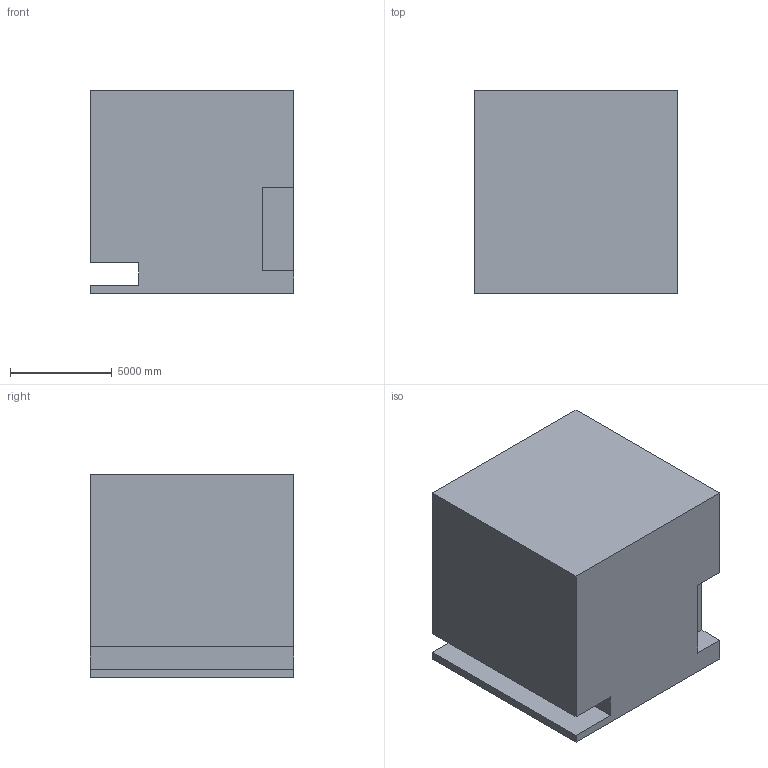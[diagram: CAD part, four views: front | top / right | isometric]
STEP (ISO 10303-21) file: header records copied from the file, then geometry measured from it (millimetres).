
FILE_DESCRIPTION (( 'STEP AP203' ), '1' );
FILE_NAME ('10.STEP', '2022-08-30T14:00:48', ( 'user' ), ( '' ), 'SwSTEP 2.0', 'SolidWorks 2021', '' );
FILE_SCHEMA (( 'CONFIG_CONTROL_DESIGN' ));
Length unit declared in the file: centimetre
Products named in the file (1): 10
Bounding box: 10000 x 10000 x 10000 mm (x, y, z)
Volume: 965428440780.6 mm3; surface area: 646322802.2 mm2
Topology: 1 solids, 1 shells, 14 faces, 36 edges, 24 vertices
Faces by surface type: plane 14
Entity records: 497 total; most frequent: CARTESIAN_POINT 75, ORIENTED_EDGE 72, DIRECTION 66, VECTOR 36, LINE 36, EDGE_CURVE 36, VERTEX_POINT 24, AXIS2_PLACEMENT_3D 15
